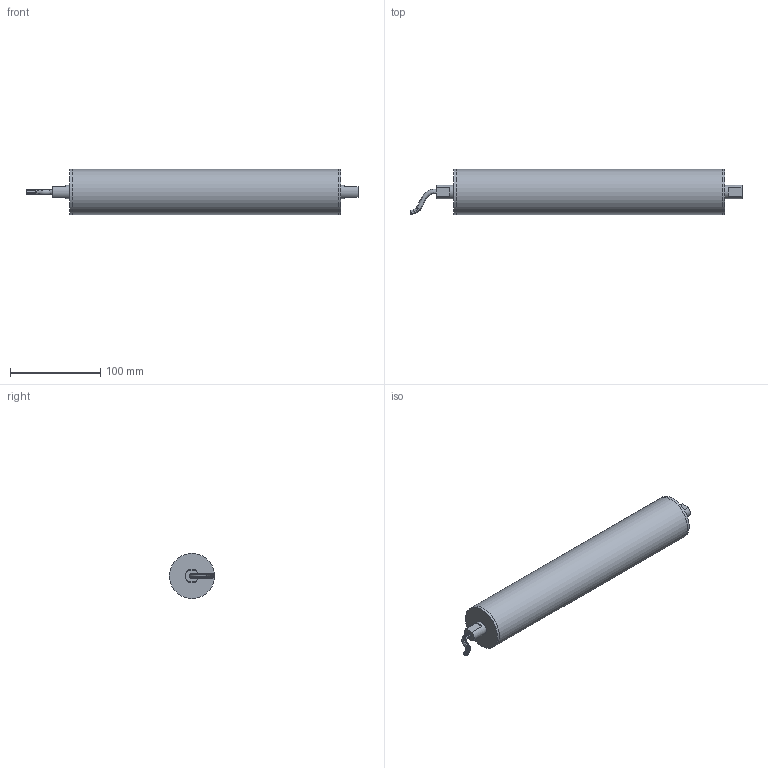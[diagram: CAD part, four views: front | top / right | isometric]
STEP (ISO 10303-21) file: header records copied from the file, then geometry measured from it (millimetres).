
FILE_DESCRIPTION(/* description */ (''),/* implementation_level */ '2;1');
FILE_NAME(/* name */ 'BLDG50-300.stp',/* time_stamp */ '2021-11-10T09:04:34+08:00',/* author */ (''),/* organization */ (''),/* preprocessor_version */ 'ST-DEVELOPER v16.7',/* originating_system */ 'SIEMENS PLM Software NX 1899',/* authorisation */ '');
FILE_SCHEMA (('AP203_CONFIGURATION_CONTROLLED_3D_DESIGN_OF_MECHANICAL_PARTS_AND_ASSEMBLIES_MIM_LF { 1 0 10303 403 2 1 2}'));
Length unit declared in the file: millimetre
Products named in the file (1): BLDG50-300
Bounding box: 367.15 x 50 x 50 mm (x, y, z)
Volume: 608031 mm3; surface area: 63705.1 mm2
Topology: 13 solids, 13 shells, 49 faces, 66 edges, 44 vertices
Faces by surface type: plane 35, bspline 9, cylinder 5
Full cylindrical faces by diameter (mm): 15 x2, 50 x3
Entity records: 3505 total; most frequent: CARTESIAN_POINT 2630, DIRECTION 148, ORIENTED_EDGE 100, AXIS2_PLACEMENT_3D 66, EDGE_LOOP 64, EDGE_CURVE 50, ADVANCED_FACE 49, VERTEX_POINT 42
